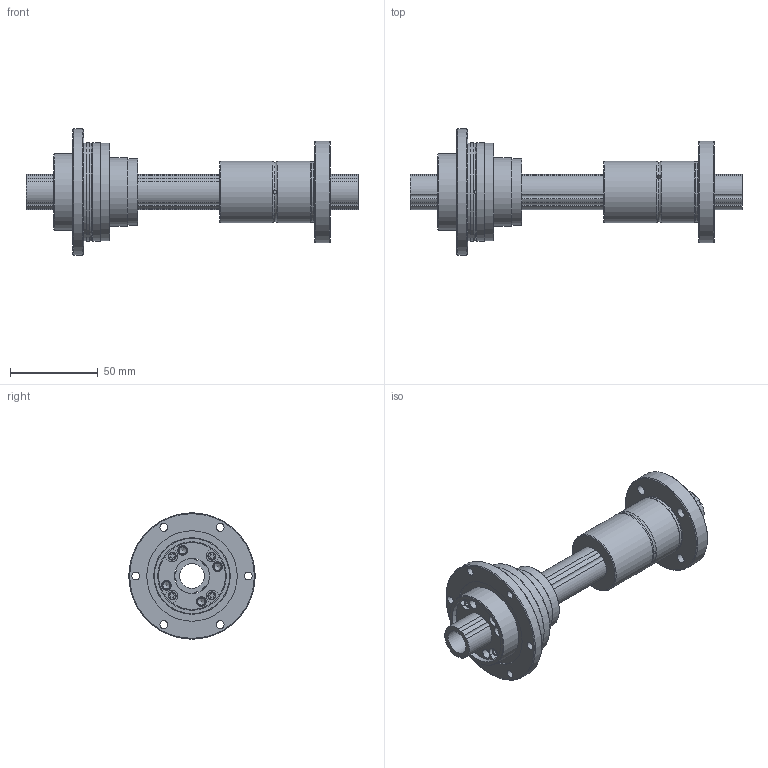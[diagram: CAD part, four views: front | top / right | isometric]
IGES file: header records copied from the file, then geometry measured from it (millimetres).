
Start section: Data from Parasolid IGES Translator 26.0.171, Copyright(c) 2006 Siemens PLM Software. All Rights Reserved.
Global section: file name: NS2020A+189L.igs; native system: By Siemens PLM Incorporated; preprocessor: XPlus GENERIC/IGES 26.0.171; author: Noname; organization: Noname; date: 20250611.084539; units: millimetre
Bounding box: 189 x 72 x 72 mm (x, y, z)
Surface area: 59048.5 mm2 (no closed solid volume)
Topology: 0 solids, 0 shells, 172 faces, 786 edges, 695 vertices
Faces by surface type: revolution 98, extrusion 74
